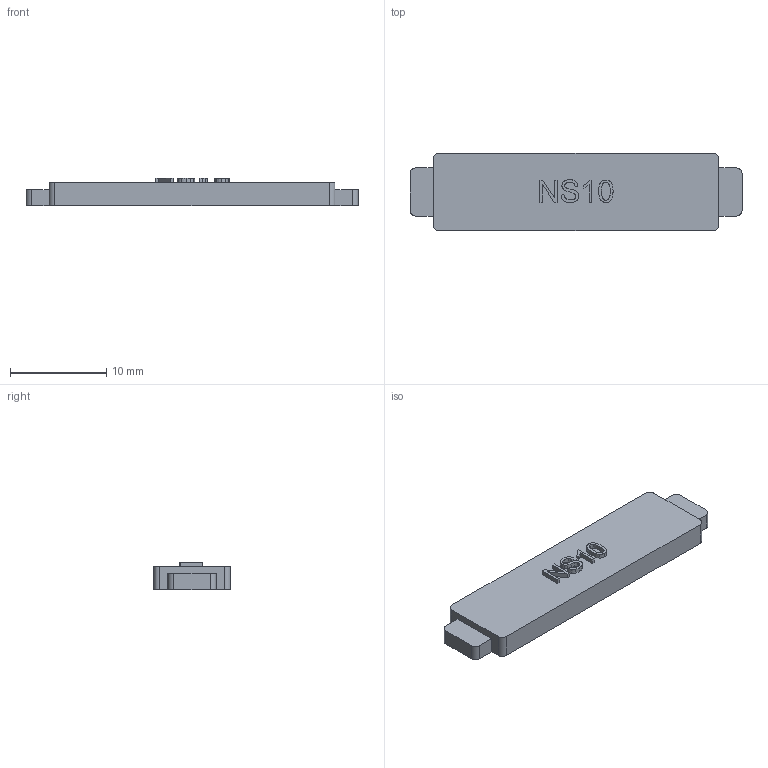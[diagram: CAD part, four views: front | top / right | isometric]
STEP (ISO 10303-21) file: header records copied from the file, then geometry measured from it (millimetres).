
FILE_DESCRIPTION(('Open CASCADE Model'),'2;1');
FILE_NAME('Open CASCADE Shape Model','1970-01-01T00:00:00',('Author'),( 'Open CASCADE'),'Open CASCADE STEP processor 7.8','Open CASCADE 7.8' ,'Unknown');
FILE_SCHEMA(('AUTOMOTIVE_DESIGN { 1 0 10303 214 1 1 1 1 }'));
Length unit declared in the file: millimetre
Products named in the file (2): Open CASCADE STEP translator 7.8 35; NS10K neck keeper bar
Assembly tree (1 placements, depth 2):
  Open CASCADE STEP translator 7.8 35
    NS10K neck keeper bar
Bounding box: 34.5 x 8 x 2.88 mm (x, y, z)
Volume: 612.2 mm3; surface area: 735.9 mm2
Topology: 1 solids, 1 shells, 101 faces, 282 edges, 188 vertices
Faces by surface type: extrusion 57, plane 36, cylinder 8
Entity records: 7836 total; most frequent: CARTESIAN_POINT 2752, DIRECTION 676, ORIENTED_EDGE 564, PCURVE 564, DEFINITIONAL_REPRESENTATION 564, VECTOR 540, LINE 483, B_SPLINE_CURVE_WITH_KNOTS 388
